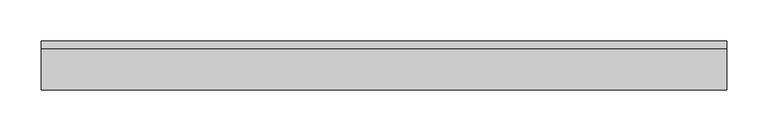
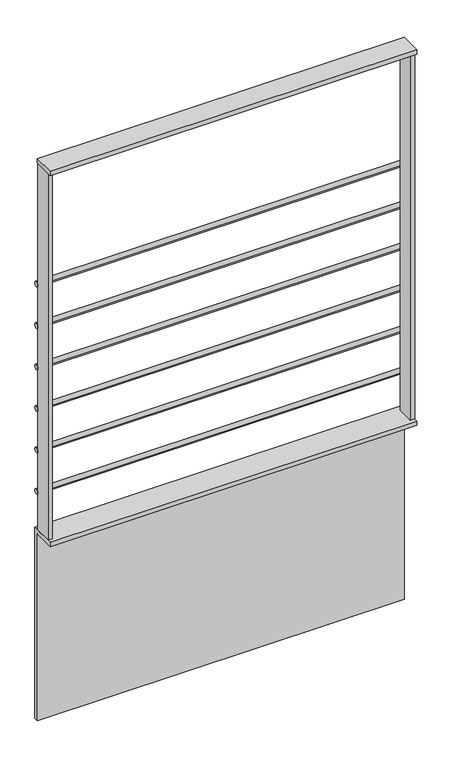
"""IFC4 building model written with IfcOpenShell, lengths in millimetres: railing geometry, Pletina y tubos pancha cubre forjado."""

import ifcopenshell
import ifcopenshell.guid

model = None  # the IFC model being written
_history = None  # IfcOwnerHistory: only IFC2X3 demands one
_inside = {}  # id of a spatial element -> (the spatial element, [elements in it])
_under = {}  # id of a project, library or spatial element -> (it, [spatial elements below it])
_declared = {}  # id of a project -> (the project, [libraries it declares])
_typed = {}  # id of a type object -> (the type object, [elements of that type])
_made_of = {}  # id of a material, layer set ... -> (it, [elements and type objects made of it])


def new_model(schema):
    """Start an empty IFC model of exactly this schema.

    Asked for "IFC4X3", IfcOpenShell would pick the latest addendum, in which some entities
    have other attributes; the version numbers below select the first issue.
    IFC2X3 requires an IfcOwnerHistory on every rooted entity: one is made here for all.
    """
    global model, _history
    if schema == "IFC4X3":
        model = ifcopenshell.file(schema_version=(4, 3, 0, 0))
    else:
        model = ifcopenshell.file(schema=schema)
    _inside.clear()
    _under.clear()
    _declared.clear()
    _typed.clear()
    _made_of.clear()
    _history = None
    if model.schema == "IFC2X3":
        org = make("IfcOrganization", Name="unknown")
        user = make(
            "IfcPersonAndOrganization",
            ThePerson=make("IfcPerson", FamilyName="unknown"),
            TheOrganization=org,
        )
        app = make(
            "IfcApplication",
            ApplicationDeveloper=org,
            Version="unknown",
            ApplicationFullName="unknown",
            ApplicationIdentifier="unknown",
        )
        _history = make(
            "IfcOwnerHistory",
            OwningUser=user,
            OwningApplication=app,
            ChangeAction="ADDED",
            CreationDate=0,
        )
    return model


def make(cls, **values):
    """One entity of the class cls with the attributes given. An attribute that is None is left unset."""
    return model.create_entity(
        cls, **{name: value for name, value in values.items() if value is not None}
    )


def rooted(cls, **values):
    """An entity with a GlobalId (a new one), such as an element, a storey or a relation."""
    return make(cls, GlobalId=ifcopenshell.guid.new(), OwnerHistory=_history, **values)


def si_unit(unit_type, name, prefix=None):
    """IfcSIUnit, for example si_unit("LENGTHUNIT", "METRE", prefix="MILLI")."""
    return make("IfcSIUnit", UnitType=unit_type, Prefix=prefix, Name=name)


def assignment(units):
    """IfcUnitAssignment: the units of a project."""
    return None if units is None else make("IfcUnitAssignment", Units=units)


def point(xyz):
    """IfcCartesianPoint."""
    return None if xyz is None else make("IfcCartesianPoint", Coordinates=xyz)


def direction(xyz):
    """IfcDirection."""
    return None if xyz is None else make("IfcDirection", DirectionRatios=xyz)


def frame(location, z_axis=None, x_axis=None):
    """IfcAxis2Placement3D, a coordinate frame: its origin and axes. An axis left out is left unset."""
    return make(
        "IfcAxis2Placement3D",
        Location=point(location),
        Axis=direction(z_axis),
        RefDirection=direction(x_axis),
    )


def frame_2d(location, x_axis=None):
    """IfcAxis2Placement2D, a coordinate frame in the plane: its origin and x axis."""
    return make(
        "IfcAxis2Placement2D", Location=point(location), RefDirection=direction(x_axis)
    )


def origin():
    """The frame at (0, 0, 0) with its axes left unset."""
    return frame((0.0, 0.0, 0.0))


def place(relative_to, where):
    """IfcLocalPlacement: puts the frame where relative to a parent placement (None: the world)."""
    return make(
        "IfcLocalPlacement", PlacementRelTo=relative_to, RelativePlacement=where
    )


def context(
    kind, dimensions, precision=None, world=None, true_north=None, identifier=None
):
    """IfcGeometricRepresentationContext, for example the 3D "Model" context."""
    return make(
        "IfcGeometricRepresentationContext",
        ContextIdentifier=identifier,
        ContextType=kind,
        CoordinateSpaceDimension=dimensions,
        Precision=precision,
        WorldCoordinateSystem=world,
        TrueNorth=true_north,
    )


def project(units=None, contexts=None):
    """IfcProject with its units and contexts."""
    return rooted(
        "IfcProject",
        Name="project",
        RepresentationContexts=contexts,
        UnitsInContext=assignment(units),
    )


def spatial(cls, under=None, at=None, **own):
    """A site, building, storey or space (cls), placed at a placement, below another one or the project."""
    s = rooted(cls, ObjectPlacement=at, **own)
    if under is not None:
        _under.setdefault(under.id(), (under, []))[1].append(s)
    return s


def polyline(points):
    """IfcPolyline through the points."""
    return make("IfcPolyline", Points=[point(p) for p in points])


def circle_curve(where, radius):
    """IfcCircle in the frame where."""
    return make("IfcCircle", Position=where, Radius=radius)


def trimmed(basis, trim1, trim2, sense, master):
    """IfcTrimmedCurve: the piece of a basis curve between two trims."""
    return make(
        "IfcTrimmedCurve",
        BasisCurve=basis,
        Trim1=trim1,
        Trim2=trim2,
        SenseAgreement=sense,
        MasterRepresentation=master,
    )


def segment(curve, same_sense, transition):
    """IfcCompositeCurveSegment."""
    return make(
        "IfcCompositeCurveSegment",
        Transition=transition,
        SameSense=same_sense,
        ParentCurve=curve,
    )


def composite_curve(segments, self_intersect=None):
    """IfcCompositeCurve: segments joined end to end."""
    return make("IfcCompositeCurve", Segments=segments, SelfIntersect=self_intersect)


def outline(outer, holes=None, kind="AREA"):
    """IfcArbitraryClosedProfileDef: a profile drawn as a closed curve; with holes, ...WithVoids."""
    if holes is None:
        return make("IfcArbitraryClosedProfileDef", ProfileType=kind, OuterCurve=outer)
    return make(
        "IfcArbitraryProfileDefWithVoids",
        ProfileType=kind,
        OuterCurve=outer,
        InnerCurves=holes,
    )


def extrude(swept, where, along, depth):
    """IfcExtrudedAreaSolid: the profile swept, set in the frame where, extruded along a direction by depth."""
    return make(
        "IfcExtrudedAreaSolid",
        SweptArea=swept,
        Position=where,
        ExtrudedDirection=direction(along),
        Depth=depth,
    )


def shape(context_of_items, identifier, shape_type, items):
    """IfcShapeRepresentation: the items that make up one representation, for example the "Body"."""
    return make(
        "IfcShapeRepresentation",
        ContextOfItems=context_of_items,
        RepresentationIdentifier=identifier,
        RepresentationType=shape_type,
        Items=items,
    )


def source(mapping_origin, context_of_items, identifier, shape_type, items):
    """IfcRepresentationMap: a shape defined once, which mapped items show again and again."""
    return make(
        "IfcRepresentationMap",
        MappingOrigin=mapping_origin,
        MappedRepresentation=shape(context_of_items, identifier, shape_type, items),
    )


def transform(
    local_origin,
    x_axis=None,
    y_axis=None,
    z_axis=None,
    scale=None,
    scale2=None,
    scale3=None,
    uniform=True,
):
    """IfcCartesianTransformationOperator3D, or its non-uniform kind. x_axis, y_axis, z_axis: its Axis1, 2, 3."""
    if uniform:
        return make(
            "IfcCartesianTransformationOperator3D",
            Axis1=direction(x_axis),
            Axis2=direction(y_axis),
            LocalOrigin=point(local_origin),
            Scale=scale,
            Axis3=direction(z_axis),
        )
    return make(
        "IfcCartesianTransformationOperator3DnonUniform",
        Axis1=direction(x_axis),
        Axis2=direction(y_axis),
        LocalOrigin=point(local_origin),
        Scale=scale,
        Axis3=direction(z_axis),
        Scale2=scale2,
        Scale3=scale3,
    )


def mapped(mapping_source, mapping_target):
    """IfcMappedItem: shows the shape of a source again, moved by a transform."""
    return make(
        "IfcMappedItem", MappingSource=mapping_source, MappingTarget=mapping_target
    )


def made_of(thing, what):
    """Note that an element or type object is made of a material, layer set ...; save() writes the relation."""
    if what is not None:
        _made_of.setdefault(what.id(), (what, []))[1].append(thing)
    return thing


def element(
    cls,
    number,
    at=None,
    inside=None,
    cuts=None,
    type_object=None,
    material=None,
    context=None,
    identifier="Body",
    shape_type=None,
    held_by="IfcProductDefinitionShape",
    body=None,
    shapes=None,
    **own,
):
    """One element of the class cls, such as IfcWall. Its Tag is "e" and its number.

    at: its placement. inside: the storey or other place that contains it. cuts: it is an
    opening in that element (IfcRelVoidsElement). A single representation is given by context,
    identifier, shape_type and body (its items); several are given by shapes. held_by: the class
    of the entity that holds the representations. save() writes the other relations.
    """
    e = rooted(cls, Tag="e%d" % number, ObjectPlacement=at, **own)
    if body is not None:
        shapes = [shape(context, identifier, shape_type, body)]
    if shapes is not None:
        e.Representation = make(held_by, Representations=shapes)
    if inside is not None:
        _inside.setdefault(inside.id(), (inside, []))[1].append(e)
    if cuts is not None:
        rooted(
            "IfcRelVoidsElement", RelatingBuildingElement=cuts, RelatedOpeningElement=e
        )
    if type_object is not None:
        _typed.setdefault(type_object.id(), (type_object, []))[1].append(e)
    return made_of(e, material)


def aggregate(whole, parts):
    """IfcRelAggregates: a whole, such as a stair, and the parts it consists of."""
    return rooted("IfcRelAggregates", RelatingObject=whole, RelatedObjects=parts)


def save(model, path):
    """Write the relations noted so far, then the file.

    IfcRelAggregates (storeys below a building ...), IfcRelContainedInSpatialStructure (elements
    in a storey), IfcRelDefinesByType, IfcRelAssociatesMaterial and IfcRelDeclares: one each for
    every whole, place, type object, material and project.
    """
    for whole, parts in _under.values():
        aggregate(whole, parts)
    for where, things in _inside.values():
        rooted(
            "IfcRelContainedInSpatialStructure",
            RelatedElements=things,
            RelatingStructure=where,
        )
    for kind, things in _typed.values():
        rooted("IfcRelDefinesByType", RelatedObjects=things, RelatingType=kind)
    for what, things in _made_of.values():
        rooted("IfcRelAssociatesMaterial", RelatedObjects=things, RelatingMaterial=what)
    for by, libraries in _declared.values():
        rooted("IfcRelDeclares", RelatingContext=by, RelatedDefinitions=libraries)
    model.write(path)


def railing_ba0a9aa2(model_context):
    return source(origin(), model_context, "Body", "SweptSolid", [
        extrude(outline(polyline([(1769.072658, 3100.0), (1719.072658, 3100.0), (1719.072658, 3110.0), (1779.072658, 3110.0), (1779.072658, 2650.0), (1769.072658, 2650.0), (1769.072658, 3100.0)])), frame((49.1436117, 0.0, 0.0), z_axis=(1.0, 0.0, 0.0), x_axis=(0.0, 1.0, 0.0)), (0.0, 0.0, 1.0), 836.3914841),
        extrude(outline(composite_curve([segment(trimmed(circle_curve(frame_2d((1773.072658, 3200.0)), 6.0), [point((1767.072658, 3200.0))], [point((1779.072658, 3200.0))], False, "CARTESIAN"), True, "CONTINUOUS"), segment(trimmed(circle_curve(frame_2d((1773.072658, 3200.0)), 6.0), [point((1779.072658, 3200.0))], [point((1767.072658, 3200.0))], False, "CARTESIAN"), True, "CONTINUOUS")], self_intersect=False)), frame((49.1436117, 0.0, 0.0), z_axis=(1.0, 0.0, 0.0), x_axis=(0.0, 1.0, 0.0)), (0.0, 0.0, 1.0), 836.3914841),
        extrude(outline(composite_curve([segment(trimmed(circle_curve(frame_2d((1773.072658, 3300.0)), 6.0), [point((1767.072658, 3300.0))], [point((1779.072658, 3300.0))], False, "CARTESIAN"), True, "CONTINUOUS"), segment(trimmed(circle_curve(frame_2d((1773.072658, 3300.0)), 6.0), [point((1779.072658, 3300.0))], [point((1767.072658, 3300.0))], False, "CARTESIAN"), True, "CONTINUOUS")], self_intersect=False)), frame((49.1436117, 0.0, 0.0), z_axis=(1.0, 0.0, 0.0), x_axis=(0.0, 1.0, 0.0)), (0.0, 0.0, 1.0), 836.3914841),
        extrude(outline(composite_curve([segment(trimmed(circle_curve(frame_2d((1773.072658, 3400.0)), 6.0), [point((1767.072658, 3400.0))], [point((1779.072658, 3400.0))], False, "CARTESIAN"), True, "CONTINUOUS"), segment(trimmed(circle_curve(frame_2d((1773.072658, 3400.0)), 6.0), [point((1779.072658, 3400.0))], [point((1767.072658, 3400.0))], False, "CARTESIAN"), True, "CONTINUOUS")], self_intersect=False)), frame((49.1436117, 0.0, 0.0), z_axis=(1.0, 0.0, 0.0), x_axis=(0.0, 1.0, 0.0)), (0.0, 0.0, 1.0), 836.3914841),
        extrude(outline(composite_curve([segment(trimmed(circle_curve(frame_2d((1773.072658, 3500.0)), 6.0), [point((1767.072658, 3500.0))], [point((1779.072658, 3500.0))], False, "CARTESIAN"), True, "CONTINUOUS"), segment(trimmed(circle_curve(frame_2d((1773.072658, 3500.0)), 6.0), [point((1779.072658, 3500.0))], [point((1767.072658, 3500.0))], False, "CARTESIAN"), True, "CONTINUOUS")], self_intersect=False)), frame((49.1436117, 0.0, 0.0), z_axis=(1.0, 0.0, 0.0), x_axis=(0.0, 1.0, 0.0)), (0.0, 0.0, 1.0), 836.3914841),
        extrude(outline(composite_curve([segment(trimmed(circle_curve(frame_2d((1773.072658, 3600.0)), 6.0), [point((1767.072658, 3600.0))], [point((1779.072658, 3600.0))], False, "CARTESIAN"), True, "CONTINUOUS"), segment(trimmed(circle_curve(frame_2d((1773.072658, 3600.0)), 6.0), [point((1779.072658, 3600.0))], [point((1767.072658, 3600.0))], False, "CARTESIAN"), True, "CONTINUOUS")], self_intersect=False)), frame((49.1436117, 0.0, 0.0), z_axis=(1.0, 0.0, 0.0), x_axis=(0.0, 1.0, 0.0)), (0.0, 0.0, 1.0), 836.3914841),
        extrude(outline(composite_curve([segment(trimmed(circle_curve(frame_2d((1773.072658, 3700.0)), 6.0), [point((1767.072658, 3700.0))], [point((1779.072658, 3700.0))], False, "CARTESIAN"), True, "CONTINUOUS"), segment(trimmed(circle_curve(frame_2d((1773.072658, 3700.0)), 6.0), [point((1779.072658, 3700.0))], [point((1767.072658, 3700.0))], False, "CARTESIAN"), True, "CONTINUOUS")], self_intersect=False)), frame((49.1436117, 0.0, 0.0), z_axis=(1.0, 0.0, 0.0), x_axis=(0.0, 1.0, 0.0)), (0.0, 0.0, 1.0), 836.3914841),
        extrude(outline(polyline([(885.5350958, 1769.072658), (885.5350958, 1719.072658), (49.1436117, 1719.072658), (49.1436117, 1769.072658), (885.5350958, 1769.072658)])), frame((0.0, 0.0, 3995.0), z_axis=(0.0, 0.0, 1.0), x_axis=(1.0, 0.0, 0.0)), (0.0, 0.0, 1.0), 10.0),
        extrude(outline(polyline([(59.1436117, 1727.072658), (49.1436117, 1727.072658), (49.1436117, 1767.072658), (59.1436117, 1767.072658), (59.1436117, 1727.072658)])), frame((0.0, 0.0, 3110.0), z_axis=(0.0, 0.0, 1.0), x_axis=(1.0, 0.0, 0.0)), (0.0, 0.0, 1.0), 885.0),
        extrude(outline(polyline([(885.5350958, 1727.072658), (875.5350958, 1727.072658), (875.5350958, 1767.072658), (885.5350958, 1767.072658), (885.5350958, 1727.072658)])), frame((0.0, 0.0, 3110.0), z_axis=(0.0, 0.0, 1.0), x_axis=(1.0, 0.0, 0.0)), (0.0, 0.0, 1.0), 885.0),
    ])


if __name__ == "__main__":
    model = new_model("IFC4")
    model_context = context("Model", 3, world=origin())
    ifc_project = project(units=[si_unit("LENGTHUNIT", "METRE", prefix="MILLI")], contexts=[model_context])
    site = spatial("IfcSite", under=ifc_project)
    building = spatial("IfcBuilding", under=site)
    placement = place(None, origin())
    railing_shape = railing_ba0a9aa2(model_context)
    element("IfcRailing", 1, ObjectType="Pletina y tubos pancha cubre forjado", at=placement, inside=building, context=model_context, shape_type="MappedRepresentation", body=[
        mapped(railing_shape, transform((0.0, 0.0, 0.0), x_axis=(1.0, 0.0, 0.0), y_axis=(0.0, 1.0, 0.0), z_axis=(0.0, 0.0, 1.0))),
    ])
    save(model, "model.ifc")
